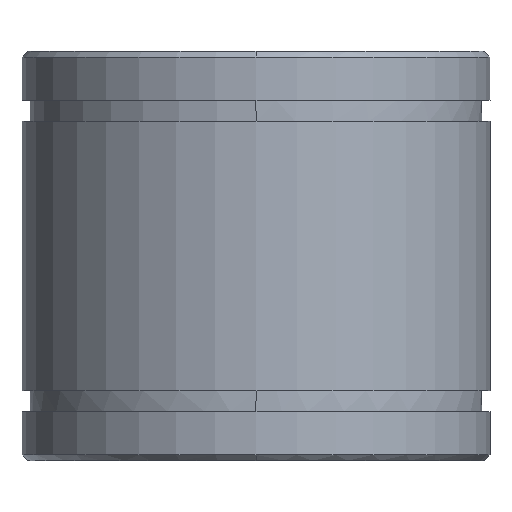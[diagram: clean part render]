
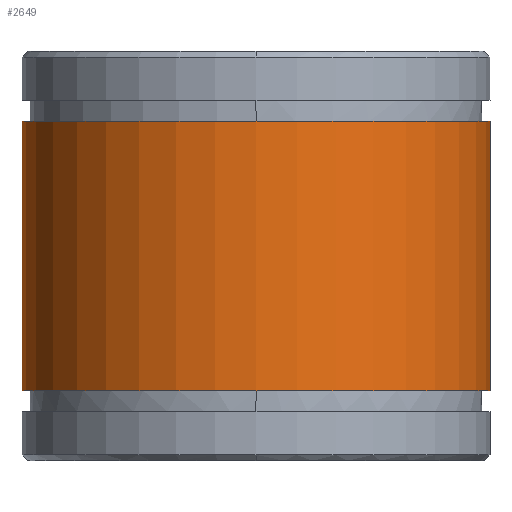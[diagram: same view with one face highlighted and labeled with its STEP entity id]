
A CAD part, front view. The second image highlights one B-rep face of the part: STEP entity #2649.
In plain terms, the highlighted cylindrical face has radius 20 mm (diameter 40 mm), a partial arc.
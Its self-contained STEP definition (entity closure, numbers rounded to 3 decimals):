
#1704=CARTESIAN_POINT('Axis2P3D Location',(0.,0.,29.)) ;
#1708=CARTESIAN_POINT('Vertex',(-20.,0.,29.)) ;
#1710=CARTESIAN_POINT('Vertex',(20.,0.,29.)) ;
#2619=CARTESIAN_POINT('Axis2P3D Location',(0.,0.,-1.75)) ;
#2624=CARTESIAN_POINT('Line Origine',(20.,0.,-1.75)) ;
#2628=CARTESIAN_POINT('Vertex',(20.,0.,6.)) ;
#2631=CARTESIAN_POINT('Line Origine',(-20.,0.,-1.75)) ;
#2635=CARTESIAN_POINT('Vertex',(-20.,0.,6.)) ;
#2638=CARTESIAN_POINT('Axis2P3D Location',(0.,0.,6.)) ;
#1705=DIRECTION('Axis2P3D Direction',(0.,-0.,1.)) ;
#2620=DIRECTION('Axis2P3D Direction',(0.,0.,1.)) ;
#2621=DIRECTION('Axis2P3D XDirection',(-1.,0.,0.)) ;
#2625=DIRECTION('Vector Direction',(0.,0.,1.)) ;
#2632=DIRECTION('Vector Direction',(0.,0.,1.)) ;
#2639=DIRECTION('Axis2P3D Direction',(0.,0.,1.)) ;
#1706=AXIS2_PLACEMENT_3D('Circle Axis2P3D',#1704,#1705,$) ;
#2622=AXIS2_PLACEMENT_3D('Cylinder Axis2P3D',#2619,#2620,#2621) ;
#2640=AXIS2_PLACEMENT_3D('Circle Axis2P3D',#2638,#2639,$) ;
#2644=ORIENTED_EDGE('',*,*,#2630,.F.) ;
#2645=ORIENTED_EDGE('',*,*,#1712,.F.) ;
#2646=ORIENTED_EDGE('',*,*,#2637,.T.) ;
#2647=ORIENTED_EDGE('',*,*,#2642,.F.) ;
#2626=VECTOR('Line Direction',#2625,1.) ;
#2633=VECTOR('Line Direction',#2632,1.) ;
#2649=ADVANCED_FACE('MANIFOLD_SOLID_BREP #2420',(#2648),#2623,.T.) ;
#1707=CIRCLE('generated circle',#1706,20.) ;
#2641=CIRCLE('generated circle',#2640,20.) ;
#2623=CYLINDRICAL_SURFACE('generated cylinder',#2622,20.) ;
#1712=EDGE_CURVE('',#1709,#1711,#1707,.T.) ;
#2630=EDGE_CURVE('',#1711,#2629,#2627,.F.) ;
#2637=EDGE_CURVE('',#1709,#2636,#2634,.F.) ;
#2642=EDGE_CURVE('',#2629,#2636,#2641,.F.) ;
#2643=EDGE_LOOP('',(#2644,#2645,#2646,#2647)) ;
#2648=FACE_OUTER_BOUND('',#2643,.T.) ;
#2627=LINE('Line',#2624,#2626) ;
#2634=LINE('Line',#2631,#2633) ;
#1709=VERTEX_POINT('',#1708) ;
#1711=VERTEX_POINT('',#1710) ;
#2629=VERTEX_POINT('',#2628) ;
#2636=VERTEX_POINT('',#2635) ;
